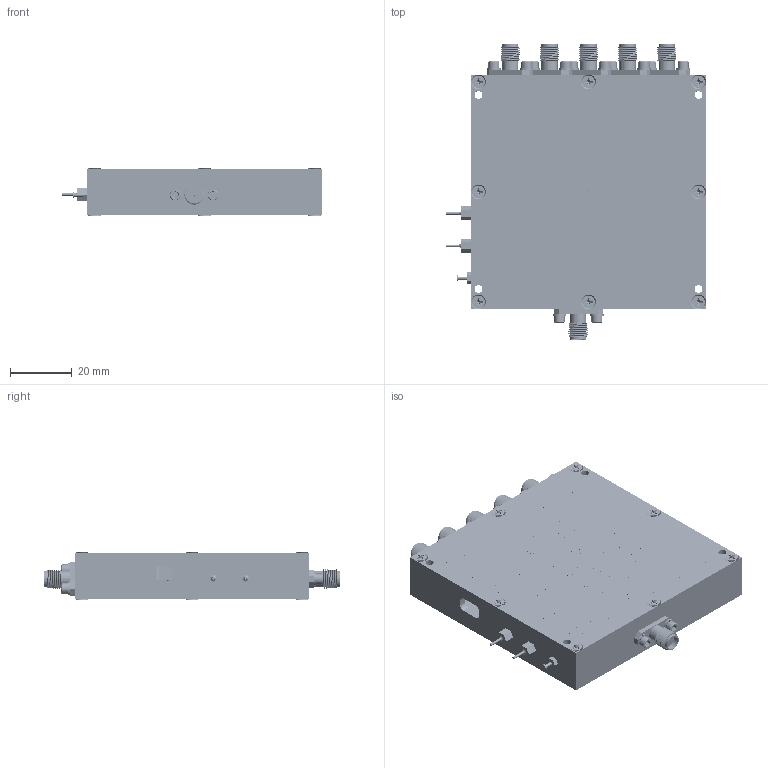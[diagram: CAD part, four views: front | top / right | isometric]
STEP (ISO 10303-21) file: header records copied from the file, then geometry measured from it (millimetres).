
FILE_DESCRIPTION( ( 'Unknown' ), '1' );
FILE_NAME( 'F:/3D Models/PTX ASSY (PMI-055)/PMI-055.stp', 'Unknown', ( 'Unknown' ), ( 'Unknown' ), 'PSStep 14.0', 'Unknown', ' ' );
FILE_SCHEMA( ( 'AUTOMOTIVE_DESIGN { 1 0 10303 214 1 1 1 1 }' ) );
Length unit declared in the file: millimetre
Products named in the file (14): ReceptacleAssembly; 1396-000-K921-023_RECEPTACLES; LOCK WASHER 2 91475A015; SCREW SHCS 2-56X0250 92196A077; ConnectorAssembly; CONNECTOR; Assem1; SCREW PFHS 2-56x0188 91771A076; 1595-3_TURRET; 657-51F-726-002_MOUSER PIN; 41-10040-01-AU_HERMETIC SEAL; PMI-056_HOUSING COVER WITH LABEL; PMI-056_HOUSING COVER; PMI-055
Assembly tree (55 placements, depth 3):
  Assem1
    SCREW SHCS 2-56X0250 92196A077  x8
    SCREW PFHS 2-56x0188 91771A076  x16
    1595-3_TURRET
    657-51F-726-002_MOUSER PIN  x2
    41-10040-01-AU_HERMETIC SEAL
    PMI-056_HOUSING COVER WITH LABEL
    PMI-056_HOUSING COVER
    LOCK WASHER 2 91475A015  x8
    PMI-055
    ConnectorAssembly  x5
      CONNECTOR
      LOCK WASHER 2 91475A015
      SCREW SHCS 2-56X0250 92196A077
    ReceptacleAssembly
      1396-000-K921-023_RECEPTACLES
      LOCK WASHER 2 91475A015  x2
      SCREW SHCS 2-56X0250 92196A077  x2
Bounding box: 84.33 x 95.76 x 15.3 mm (x, y, z)
Volume: 39084.7 mm3; surface area: 45525 mm2
Topology: 69 solids, 69 shells, 4939 faces, 16456 edges, 11778 vertices
Faces by surface type: plane 3645, cylinder 671, cone 314, extrusion 219, bspline 84, torus 4, sphere 2
Full cylindrical faces by diameter (mm): 0.457 x2, 0.542 x6, 0.813 x4, 1.016 x1, 1.321 x1, 1.694 x30, 1.905 x1, 2.134 x1, 2.184 x112, 2.438 x12, 2.515 x1, 2.591 x12, 2.647 x2, 2.845 x1, 2.921 x1, 3.048 x16, 3.151 x2, 3.505 x2, 3.556 x21, 4.216 x5, 4.674 x6, 5.334 x12
Entity records: 155346 total; most frequent: CARTESIAN_POINT 29710, ORIENTED_EDGE 21008, DIRECTION 18004, EDGE_CURVE 10504, VECTOR 9298, LINE 9155, VERTEX_POINT 7109, AXIS2_PLACEMENT_3D 4353
